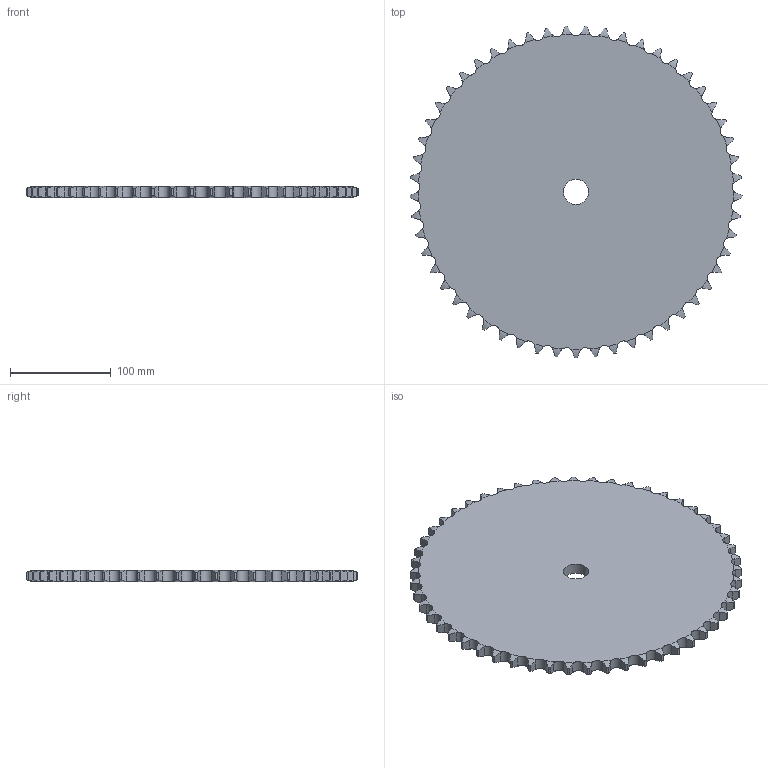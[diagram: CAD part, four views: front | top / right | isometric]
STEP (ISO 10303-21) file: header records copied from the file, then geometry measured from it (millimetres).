
FILE_DESCRIPTION((''),'2;1');
FILE_NAME('500-401-0053_PRT','2021-02-12T',('Brieden'),('Brieden'),'PRO/ENGINEER BY PARAMETRIC TECHNOLOGY CORPORATION, 2010160','PRO/ENGINEER BY PARAMETRIC TECHNOLOGY CORPORATION, 2010160','');
FILE_SCHEMA(('AUTOMOTIVE_DESIGN { 1 0 10303 214 1 1 1 1 }'));
Length unit declared in the file: millimetre
Products named in the file (1): 500-401-0053_PRT
Bounding box: 329.04 x 328.89 x 11.1 mm (x, y, z)
Volume: 867831.3 mm3; surface area: 173606 mm2
Topology: 1 solids, 1 shells, 322 faces, 960 edges, 640 vertices
Faces by surface type: cylinder 214, torus 106, plane 2
Entity records: 15984 total; most frequent: CARTESIAN_POINT 4897, ORIENTED_EDGE 1920, DIRECTION 1502, PRESENTATION_STYLE_ASSIGNMENT 961, STYLED_ITEM 961, CURVE_STYLE 960, EDGE_CURVE 960, AXIS2_PLACEMENT_3D 644
